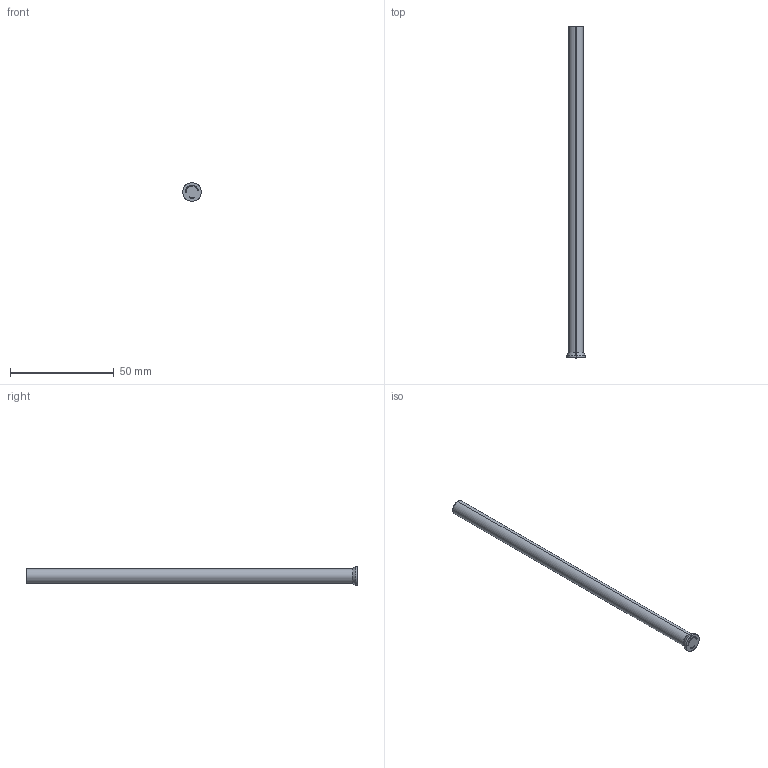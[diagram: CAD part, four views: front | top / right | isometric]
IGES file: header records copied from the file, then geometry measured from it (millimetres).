
Start section: SolidWorks IGES file using analytic representation for surfaces
Global section: file name: D:\Cleonir_particular\Matripeças\Pinos Extradores D DIN 1530\PD07,0160.IGS; native system: SolidWorks 2013; preprocessor: SolidWorks 2013; author: Cleonir; date: 130227.175234; units: millimetre
Bounding box: 9 x 160 x 9 mm (x, y, z)
Surface area: 3649.1 mm2 (no closed solid volume)
Topology: 0 solids, 0 shells, 276 faces, 2198 edges, 2198 vertices
Faces by surface type: bspline 262, revolution 14
